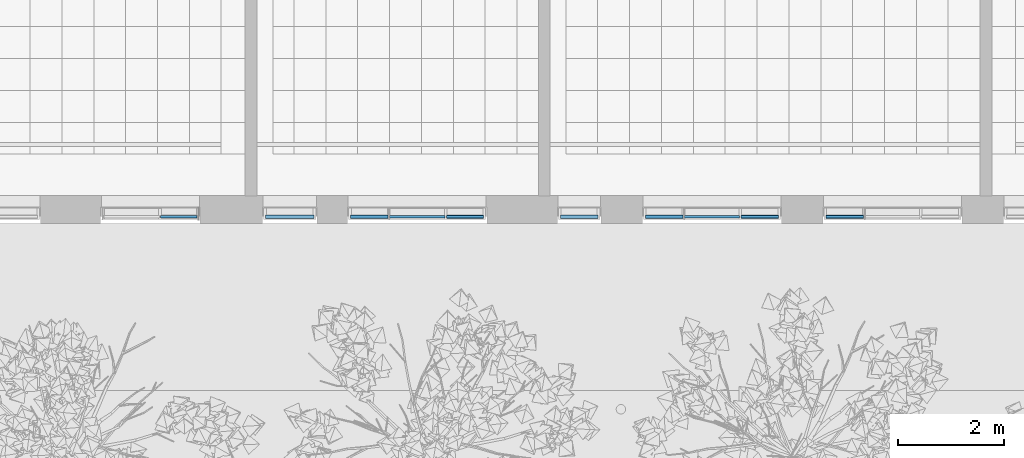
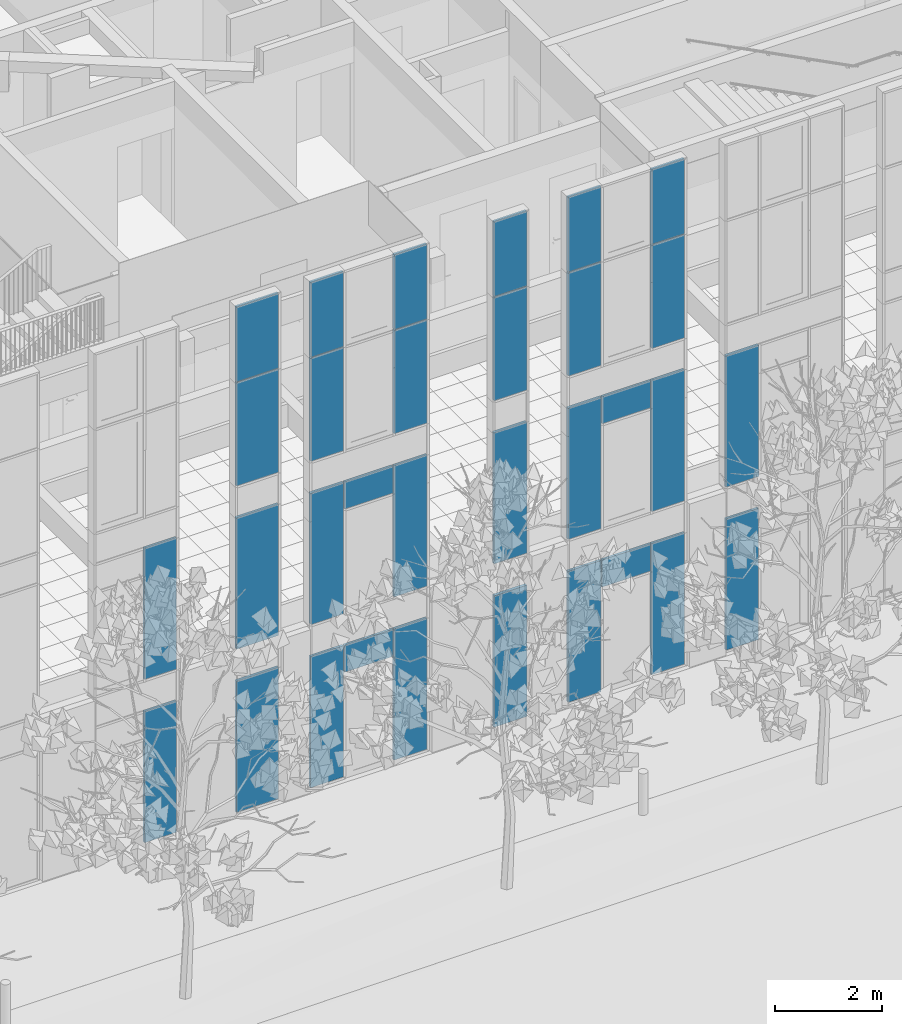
# One storey, part 53 of 246: 32 plates, 6 elements without a shape of their own.
"""IFC2X3 building model written with IfcOpenShell, lengths in millimetres."""

from ifc_helpers import new_model, entity, si_unit, converted_unit, derived_unit, money_unit, direction, frame, origin_with_axes, place, context, subcontext, project, spatial, faceted_brep, source, transform, mapped, material, type_object, element, aggregate, save


model = new_model("IFC2X3")

# Units and contexts
model_context = context("Model", 3, precision=0.01, world=origin_with_axes(), true_north=direction((0.0, 1.0)))
body_context = subcontext(model_context, "Body", "Model", "MODEL_VIEW")
ifc_project = project(units=[si_unit("LENGTHUNIT", "METRE", prefix="MILLI"), si_unit("AREAUNIT", "SQUARE_METRE"), si_unit("VOLUMEUNIT", "CUBIC_METRE"), converted_unit("PLANEANGLEUNIT", "DEGREE", entity("IfcPlaneAngleMeasure", 0.0174532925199), si_unit("PLANEANGLEUNIT", "RADIAN"), dimensions=[0, 0, 0, 0, 0, 0, 0]), si_unit("SOLIDANGLEUNIT", "STERADIAN"), money_unit("EUR"), converted_unit("TIMEUNIT", "Year", entity("IfcTimeMeasure", 31556926.0), si_unit("TIMEUNIT", "SECOND"), dimensions=[0, 0, 1, 0, 0, 0, 0]), si_unit("MASSUNIT", "GRAM", prefix="KILO"), si_unit("THERMODYNAMICTEMPERATUREUNIT", "DEGREE_CELSIUS"), si_unit("LUMINOUSINTENSITYUNIT", "LUMEN"), si_unit("ENERGYUNIT", "JOULE", prefix="MEGA"), derived_unit("THERMALCONDUCTANCEUNIT", [(si_unit("POWERUNIT", "WATT"), 1), (si_unit("LENGTHUNIT", "METRE"), -1), (si_unit("THERMODYNAMICTEMPERATUREUNIT", "KELVIN"), -1)]), derived_unit("SPECIFICHEATCAPACITYUNIT", [(si_unit("ENERGYUNIT", "JOULE"), 1), (si_unit("MASSUNIT", "GRAM", prefix="KILO"), -1), (si_unit("THERMODYNAMICTEMPERATUREUNIT", "KELVIN"), -1)]), derived_unit("MASSDENSITYUNIT", [(si_unit("MASSUNIT", "GRAM", prefix="KILO"), 1), (si_unit("VOLUMEUNIT", "CUBIC_METRE"), -1)])], contexts=[model_context])

# Site, building, storey
site_placement = place(None, origin_with_axes())
site = spatial("IfcSite", under=ifc_project, at=site_placement, Name="L.Koidula tn 11b", CompositionType="ELEMENT")
building_placement = place(site_placement, origin_with_axes())
building = spatial("IfcBuilding", under=site, at=building_placement, Name="Rakvere Riigigümnaasium", CompositionType="ELEMENT")
storey_placement = place(building_placement, origin_with_axes())
storey = spatial("IfcBuildingStorey", under=building, at=storey_placement, Name="1.korrus 0,00", CompositionType="ELEMENT", Elevation=0.0)

# Curtain wall, plates
curtain_wall_type = type_object("IfcCurtainWallType", Name="Curtain Wall Type", PredefinedType="NOTDEFINED")
curtain_wall_1_placement = place(storey_placement, frame((69496.9084811, 5111.45334637, -8.09717186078e-06), z_axis=(0.0, 0.0, 1.0), x_axis=(1.0, 0.0, 0.0)))
curtain_wall_1 = element("IfcCurtainWall", 1, at=curtain_wall_1_placement, inside=storey, type_object=curtain_wall_type, Name="KLF-05-3B")
ifc_material_1 = material(Name="Klaaspakett 3x ribikardinatega")
plate_type_1 = type_object("IfcPlateType", Name="8 x 616 x 54", PredefinedType="CURTAIN_PANEL")
shared_shape_1 = source(origin_with_axes(), body_context, "Body", "Brep", [
    faceted_brep([(1058.00000089, 628.000001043, -27.0), (19.5432752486, 628.000001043, -27.0), (19.5432752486, 628.000001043, 27.0), (1058.00000089, 628.000001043, 27.0), (1058.00000089, 11.9999991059, -27.0), (19.5432752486, 11.9999991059, -27.0), (11.9999991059, 11.9999991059, -27.0), (11.9999991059, 628.000001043, -27.0), (11.9999991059, 628.000001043, 27.0), (11.9999991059, 11.9999991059, 27.0), (19.5432752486, 11.9999991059, 27.0), (1058.00000089, 11.9999991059, 27.0)], [[[0, 1, 2, 3]], [[0, 4, 5, 6, 7, 1]], [[1, 7, 8, 2]], [[3, 2, 8, 9, 10, 11]], [[4, 0, 3, 11]], [[5, 4, 11, 10]], [[6, 5, 10, 9]], [[7, 6, 9, 8]]]),
])
plate_1_placement = place(curtain_wall_1_placement, frame((-68.7275395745, 0.0, 2720.0), z_axis=(0.0, 0.0, 1.0), x_axis=(-1.0, 0.0, 0.0)))
plate_1 = element("IfcPlate", 2, at=plate_1_placement, type_object=plate_type_1, material=ifc_material_1, Name="KLF-58", ObjectType="CURTAIN_PANEL", context=body_context, shape_type="MappedRepresentation", body=[
    mapped(shared_shape_1, transform((363.181089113, 0.0, -320.0), x_axis=(-1.0, 0.0, 0.0), y_axis=(0.0, 0.0, 1.0), z_axis=(0.0, 1.0, 0.0))),
])
plate_2_placement = place(curtain_wall_1_placement, frame((-68.7275395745, 0.0, 6440.0), z_axis=(0.0, 0.0, 1.0), x_axis=(-1.0, 0.0, 0.0)))
plate_2 = element("IfcPlate", 3, at=plate_2_placement, type_object=plate_type_1, material=ifc_material_1, Name="KLF-71", ObjectType="CURTAIN_PANEL", context=body_context, shape_type="MappedRepresentation", body=[
    mapped(shared_shape_1, transform((363.181089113, 0.0, -320.0), x_axis=(-1.0, 0.0, 0.0), y_axis=(0.0, 0.0, 1.0), z_axis=(0.0, 1.0, 0.0))),
])

curtain_wall_2_placement = place(storey_placement, frame((63946.9084811, 5111.45334637, -8.0971711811e-06), z_axis=(0.0, 0.0, 1.0), x_axis=(1.0, 0.0, 0.0)))
curtain_wall_2 = element("IfcCurtainWall", 4, at=curtain_wall_2_placement, inside=storey, type_object=curtain_wall_type, Name="KLF-05-3B")
plate_3_placement = place(curtain_wall_2_placement, frame((-68.7275395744, 0.0, 2720.0), z_axis=(0.0, 0.0, 1.0), x_axis=(-1.0, 0.0, 0.0)))
plate_3 = element("IfcPlate", 5, at=plate_3_placement, type_object=plate_type_1, material=ifc_material_1, Name="KLF-58", ObjectType="CURTAIN_PANEL", context=body_context, shape_type="MappedRepresentation", body=[
    mapped(shared_shape_1, transform((363.181089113, 0.0, -320.0), x_axis=(-1.0, 0.0, 0.0), y_axis=(0.0, 0.0, 1.0), z_axis=(0.0, 1.0, 0.0))),
])
plate_4_placement = place(curtain_wall_2_placement, frame((-68.7275395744, 0.0, 6440.0), z_axis=(0.0, 0.0, 1.0), x_axis=(-1.0, 0.0, 0.0)))
plate_4 = element("IfcPlate", 6, at=plate_4_placement, type_object=plate_type_1, material=ifc_material_1, Name="KLF-71", ObjectType="CURTAIN_PANEL", context=body_context, shape_type="MappedRepresentation", body=[
    mapped(shared_shape_1, transform((363.181089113, 0.0, -320.0), x_axis=(-1.0, 0.0, 0.0), y_axis=(0.0, 0.0, 1.0), z_axis=(0.0, 1.0, 0.0))),
])

curtain_wall_3_placement = place(storey_placement, frame((59064.0000846, 5111.45334637, -8.09717250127e-06), z_axis=(0.0, 0.0, 1.0), x_axis=(1.0, 0.0, 0.0)))
curtain_wall_3 = element("IfcCurtainWall", 7, at=curtain_wall_3_placement, inside=storey, type_object=curtain_wall_type, Name="KLF-05-2A")
plate_type_2 = type_object("IfcPlateType", Name="686 x 628 x 54", PredefinedType="CURTAIN_PANEL")
shared_shape_2 = source(origin_with_axes(), body_context, "Body", "Brep", [
    faceted_brep([(698.000286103, 3028.00000715, -27.0), (11.9999928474, 3028.00000715, -27.0), (11.9999928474, 3028.00000715, 27.0), (698.000286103, 3028.00000715, 27.0), (698.000286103, 2400.00001907, -27.0), (698.000286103, 37.0000119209, -27.0), (11.9999928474, 37.0000119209, -27.0), (11.9999928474, 2400.00001907, -27.0), (11.9999928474, 2400.00001907, 27.0), (11.9999928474, 37.0000119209, 27.0), (698.000286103, 37.0000119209, 27.0), (698.000286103, 2400.00001907, 27.0)], [[[0, 1, 2, 3]], [[0, 4, 5, 6, 7, 1]], [[1, 7, 8, 2]], [[3, 2, 8, 9, 10, 11]], [[4, 0, 3, 11]], [[5, 4, 11, 10]], [[6, 5, 10, 9]], [[7, 6, 9, 8]]]),
])
plate_5_placement = place(curtain_wall_3_placement, frame((599.125087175, 0.0, 1740.0), z_axis=(0.0, 0.0, 1.0), x_axis=(-1.0, 0.0, 0.0)))
plate_5 = element("IfcPlate", 8, at=plate_5_placement, type_object=plate_type_2, material=ifc_material_1, Name="KLF-59", ObjectType="CURTAIN_PANEL", context=body_context, shape_type="MappedRepresentation", body=[
    mapped(shared_shape_2, transform((458.125174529, 0.0, -1740.0), x_axis=(-1.0, 0.0, 0.0), y_axis=(0.0, 0.0, 1.0), z_axis=(0.0, 1.0, 0.0))),
])
shared_shape_3 = source(origin_with_axes(), body_context, "Body", "Brep", [
    faceted_brep([(698.000300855, 3002.99998659, -27.0), (12.0000134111, 3002.99998659, -27.0), (12.0000134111, 3002.99998659, 27.0), (698.000300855, 3002.99998659, 27.0), (698.000300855, 2375.00001855, -27.0), (698.000300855, 12.0000134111, -27.0), (12.0000134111, 12.0000134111, -27.0), (12.0000134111, 2375.00001855, -27.0), (12.0000134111, 2375.00001855, 27.0), (12.0000134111, 12.0000134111, 27.0), (698.000300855, 12.0000134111, 27.0), (698.000300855, 2375.00001855, 27.0)], [[[0, 1, 2, 3]], [[0, 4, 5, 6, 7, 1]], [[1, 7, 8, 2]], [[3, 2, 8, 9, 10, 11]], [[4, 0, 3, 11]], [[5, 4, 11, 10]], [[6, 5, 10, 9]], [[7, 6, 9, 8]]]),
])
plate_6_placement = place(curtain_wall_3_placement, frame((599.125087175, 0.0, 5469.375), z_axis=(0.0, 0.0, 1.0), x_axis=(-1.0, 0.0, 0.0)))
plate_6 = element("IfcPlate", 9, at=plate_6_placement, type_object=plate_type_2, material=ifc_material_1, Name="KLF-63", ObjectType="CURTAIN_PANEL", context=body_context, shape_type="MappedRepresentation", body=[
    mapped(shared_shape_3, transform((458.125174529, 0.0, -1724.375), x_axis=(-1.0, 0.0, 0.0), y_axis=(0.0, 0.0, 1.0), z_axis=(0.0, 1.0, 0.0))),
])
aggregate(curtain_wall_3, [plate_5, plate_6])

# Plate
ifc_material_2 = material(Name="Klaaspakett 3x")
plate_type_3 = type_object("IfcPlateType", Name="Distinct Panel 706 x 828 x 65", PredefinedType="CURTAIN_PANEL")
shared_shape_4 = source(origin_with_axes(), body_context, "Body", "Brep", [
    faceted_brep([(717.999934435, 2363.00000149, -32.5), (11.9999985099, 2363.00000149, -32.5), (11.9999985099, 2363.00000149, 32.5), (717.999934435, 2363.00000149, 32.5), (717.999969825, 11.9999985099, -32.5), (11.9999985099, 11.9999985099, -32.5), (11.9999985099, 1534.99999814, -32.5), (11.9999985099, 1534.99999814, 32.5), (11.9999985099, 11.9999985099, 32.5), (717.999969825, 11.9999985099, 32.5)], [[[0, 1, 2, 3]], [[0, 4, 5, 6, 1]], [[1, 6, 7, 2]], [[3, 2, 7, 8, 9]], [[4, 0, 3, 9]], [[5, 4, 9, 8]], [[6, 5, 8, 7]]]),
])
plate_7_placement = place(curtain_wall_1_placement, frame((940.091351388, 0.0, 8722.0), z_axis=(0.0, 0.0, 1.0), x_axis=(-1.0, 0.0, 0.0)))
plate_7 = element("IfcPlate", 10, at=plate_7_placement, type_object=plate_type_3, material=ifc_material_2, Name="KLF-05-2A-Klaasid", ObjectType="CURTAIN_PANEL", context=body_context, shape_type="MappedRepresentation", body=[
    mapped(shared_shape_4, transform((301.999980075, 0.0, -1257.0), x_axis=(-1.0, 0.0, 0.0), y_axis=(0.0, 0.0, 1.0), z_axis=(0.0, 1.0, 0.0))),
])

plate_8_placement = place(curtain_wall_2_placement, frame((940.091351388, 0.0, 8722.0), z_axis=(0.0, 0.0, 1.0), x_axis=(-1.0, 0.0, 0.0)))
plate_8 = element("IfcPlate", 11, at=plate_8_placement, type_object=plate_type_3, material=ifc_material_2, Name="KLF-05-2A-Klaasid", ObjectType="CURTAIN_PANEL", context=body_context, shape_type="MappedRepresentation", body=[
    mapped(shared_shape_4, transform((301.999980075, 0.0, -1257.0), x_axis=(-1.0, 0.0, 0.0), y_axis=(0.0, 0.0, 1.0), z_axis=(0.0, 1.0, 0.0))),
])

plate_type_4 = type_object("IfcPlateType", Name="706 x 628 x 54", PredefinedType="CURTAIN_PANEL")
shared_shape_5 = source(origin_with_axes(), body_context, "Body", "Brep", [
    faceted_brep([(717.999957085, 3028.00000715, -27.0), (11.9999928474, 3028.00000715, -27.0), (11.9999928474, 3028.00000715, 27.0), (717.999957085, 3028.00000715, 27.0), (717.999911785, 2400.00001907, -27.0), (717.999957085, 37.0000119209, -27.0), (11.9999928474, 37.0000119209, -27.0), (11.9999928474, 2400.00001907, -27.0), (11.9999928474, 2400.00001907, 27.0), (11.9999928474, 37.0000119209, 27.0), (717.999957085, 37.0000119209, 27.0), (717.999911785, 2400.00001907, 27.0)], [[[0, 1, 2, 3]], [[0, 4, 5, 6, 7, 1]], [[1, 7, 8, 2]], [[3, 2, 8, 9, 10, 11]], [[4, 0, 3, 11]], [[5, 4, 11, 10]], [[6, 5, 10, 9]], [[7, 6, 9, 8]]]),
])
plate_9_placement = place(curtain_wall_1_placement, frame((1015.59134147, 0.0, 1813.33333333), z_axis=(0.0, 0.0, 1.0), x_axis=(-1.0, 0.0, 0.0)))
plate_9 = element("IfcPlate", 12, at=plate_9_placement, type_object=plate_type_4, material=ifc_material_1, Name="KLF-59", ObjectType="CURTAIN_PANEL", context=body_context, shape_type="MappedRepresentation", body=[
    mapped(shared_shape_5, transform((377.499970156, 0.0, -1813.33333333), x_axis=(-1.0, 0.0, 0.0), y_axis=(0.0, 0.0, 1.0), z_axis=(0.0, 1.0, 0.0))),
])

plate_10_placement = place(curtain_wall_2_placement, frame((1015.59134147, 0.0, 1813.33333333), z_axis=(0.0, 0.0, 1.0), x_axis=(-1.0, 0.0, 0.0)))
plate_10 = element("IfcPlate", 13, at=plate_10_placement, type_object=plate_type_4, material=ifc_material_1, Name="KLF-59", ObjectType="CURTAIN_PANEL", context=body_context, shape_type="MappedRepresentation", body=[
    mapped(shared_shape_5, transform((377.499970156, 0.0, -1813.33333333), x_axis=(-1.0, 0.0, 0.0), y_axis=(0.0, 0.0, 1.0), z_axis=(0.0, 1.0, 0.0))),
])

shared_shape_6 = source(origin_with_axes(), body_context, "Body", "Brep", [
    faceted_brep([(717.999978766, 3002.99998659, -27.0), (12.0000134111, 3002.99998659, -27.0), (12.0000134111, 3002.99998659, 27.0), (717.999978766, 3002.99998659, 27.0), (717.999888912, 2375.00001855, -27.0), (717.999978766, 12.0000134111, -27.0), (12.0000134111, 12.0000134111, -27.0), (12.0000134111, 2375.00001855, -27.0), (12.0000134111, 2375.00001855, 27.0), (12.0000134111, 12.0000134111, 27.0), (717.999978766, 12.0000134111, 27.0), (717.999888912, 2375.00001855, 27.0)], [[[0, 1, 2, 3]], [[0, 4, 5, 6, 7, 1]], [[1, 7, 8, 2]], [[3, 2, 8, 9, 10, 11]], [[4, 0, 3, 11]], [[5, 4, 11, 10]], [[6, 5, 10, 9]], [[7, 6, 9, 8]]]),
])
plate_11_placement = place(curtain_wall_1_placement, frame((1015.59134147, 0.0, 5541.66666667), z_axis=(0.0, 0.0, 1.0), x_axis=(-1.0, 0.0, 0.0)))
plate_11 = element("IfcPlate", 14, at=plate_11_placement, type_object=plate_type_4, material=ifc_material_1, Name="KLF-63", ObjectType="CURTAIN_PANEL", context=body_context, shape_type="MappedRepresentation", body=[
    mapped(shared_shape_6, transform((377.499970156, 0.0, -1796.66666667), x_axis=(-1.0, 0.0, 0.0), y_axis=(0.0, 0.0, 1.0), z_axis=(0.0, 1.0, 0.0))),
])

plate_12_placement = place(curtain_wall_2_placement, frame((1015.59134147, 0.0, 5541.66666667), z_axis=(0.0, 0.0, 1.0), x_axis=(-1.0, 0.0, 0.0)))
plate_12 = element("IfcPlate", 15, at=plate_12_placement, type_object=plate_type_4, material=ifc_material_1, Name="KLF-63", ObjectType="CURTAIN_PANEL", context=body_context, shape_type="MappedRepresentation", body=[
    mapped(shared_shape_6, transform((377.499970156, 0.0, -1796.66666667), x_axis=(-1.0, 0.0, 0.0), y_axis=(0.0, 0.0, 1.0), z_axis=(0.0, 1.0, 0.0))),
])

plate_type_5 = type_object("IfcPlateType", Name="Distinct Panel 706 x 1701 x 65", PredefinedType="CURTAIN_PANEL")
shared_shape_7 = source(origin_with_axes(), body_context, "Body", "Brep", [
    faceted_brep([(717.999940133, 1713.0000343, -32.5), (12.0000099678, 1713.0000343, -32.5), (12.0000099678, 1713.0000343, 32.5), (717.999940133, 1713.0000343, 32.5), (717.999940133, 12.0000099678, -32.5), (12.0000099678, 12.0000099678, -32.5), (12.0000099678, 12.0000099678, 32.5), (717.999940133, 12.0000099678, 32.5)], [[[0, 1, 2, 3]], [[0, 4, 5, 1]], [[1, 5, 6, 2]], [[3, 2, 6, 7]], [[4, 0, 3, 7]], [[5, 4, 7, 6]]]),
])
plate_13_placement = place(curtain_wall_1_placement, frame((1015.59134099, 0.0, 10715.0000206), z_axis=(0.0, 0.0, 1.0), x_axis=(-1.0, 0.0, 0.0)))
plate_13 = element("IfcPlate", 16, at=plate_13_placement, type_object=plate_type_5, material=ifc_material_2, Name="KLF-05-6A-Klaasid", ObjectType="CURTAIN_PANEL", context=body_context, shape_type="MappedRepresentation", body=[
    mapped(shared_shape_7, transform((377.499969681, 0.0, -875.000020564), x_axis=(-1.0, 0.0, 0.0), y_axis=(0.0, 0.0, 1.0), z_axis=(0.0, 1.0, 0.0))),
])

plate_14_placement = place(curtain_wall_2_placement, frame((1015.59134099, 0.0, 10715.0000206), z_axis=(0.0, 0.0, 1.0), x_axis=(-1.0, 0.0, 0.0)))
plate_14 = element("IfcPlate", 17, at=plate_14_placement, type_object=plate_type_5, material=ifc_material_2, Name="KLF-05-6A-Klaasid", ObjectType="CURTAIN_PANEL", context=body_context, shape_type="MappedRepresentation", body=[
    mapped(shared_shape_7, transform((377.499969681, 0.0, -875.000020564), x_axis=(-1.0, 0.0, 0.0), y_axis=(0.0, 0.0, 1.0), z_axis=(0.0, 1.0, 0.0))),
])

# Curtain wall, plate
curtain_wall_4_placement = place(storey_placement, frame((72896.908541, 5111.45334637, -8.09717227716e-06), z_axis=(0.0, 0.0, 1.0), x_axis=(1.0, 0.0, 0.0)))
curtain_wall_4 = element("IfcCurtainWall", 18, at=curtain_wall_4_placement, inside=storey, type_object=curtain_wall_type, Name="KLF-05-3B")
plate_type_6 = type_object("IfcPlateType", Name="Distinct Panel 706 x 628 x 65", PredefinedType="CURTAIN_PANEL")
shared_shape_8 = source(origin_with_axes(), body_context, "Body", "Brep", [
    faceted_brep([(787.999998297, 3002.99998659, -32.5), (81.9998981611, 3002.99998659, -32.5), (81.9998981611, 3002.99998659, 32.5), (787.999998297, 3002.99998659, 32.5), (787.999998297, 2375.00001855, -32.5), (787.999998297, 12.0000134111, -32.5), (81.9998981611, 12.0000134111, -32.5), (81.9998981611, 2375.00001855, -32.5), (81.9998981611, 2375.00001855, 32.5), (81.9998981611, 12.0000134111, 32.5), (787.999998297, 12.0000134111, 32.5), (787.999998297, 2375.00001855, 32.5)], [[[0, 1, 2, 3]], [[0, 4, 5, 6, 7, 1]], [[1, 7, 8, 2]], [[3, 2, 8, 9, 10, 11]], [[4, 0, 3, 11]], [[5, 4, 11, 10]], [[6, 5, 10, 9]], [[7, 6, 9, 8]]]),
])
plate_15_placement = place(curtain_wall_4_placement, frame((-809.408670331, 0.0, 5541.66666667), z_axis=(0.0, 0.0, 1.0), x_axis=(-1.0, 0.0, 0.0)))
plate_15 = element("IfcPlate", 19, at=plate_15_placement, type_object=plate_type_6, material=ifc_material_2, Name="KLF-05-5A-Klaasid", ObjectType="CURTAIN_PANEL", context=body_context, shape_type="MappedRepresentation", body=[
    mapped(shared_shape_8, transform((422.499958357, 0.0, -1796.66666667), x_axis=(-1.0, 0.0, 0.0), y_axis=(0.0, 0.0, 1.0), z_axis=(0.0, 1.0, 0.0))),
])

# Plate
plate_16_placement = place(curtain_wall_1_placement, frame((-809.408670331, 0.0, 5541.66666667), z_axis=(0.0, 0.0, 1.0), x_axis=(-1.0, 0.0, 0.0)))
plate_16 = element("IfcPlate", 20, at=plate_16_placement, type_object=plate_type_6, material=ifc_material_2, Name="KLF-05-5A-Klaasid", ObjectType="CURTAIN_PANEL", context=body_context, shape_type="MappedRepresentation", body=[
    mapped(shared_shape_8, transform((422.499958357, 0.0, -1796.66666667), x_axis=(-1.0, 0.0, 0.0), y_axis=(0.0, 0.0, 1.0), z_axis=(0.0, 1.0, 0.0))),
])

plate_17_placement = place(curtain_wall_2_placement, frame((-809.408670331, 0.0, 5541.66666667), z_axis=(0.0, 0.0, 1.0), x_axis=(-1.0, 0.0, 0.0)))
plate_17 = element("IfcPlate", 21, at=plate_17_placement, type_object=plate_type_6, material=ifc_material_2, Name="KLF-05-5A-Klaasid", ObjectType="CURTAIN_PANEL", context=body_context, shape_type="MappedRepresentation", body=[
    mapped(shared_shape_8, transform((422.499958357, 0.0, -1796.66666667), x_axis=(-1.0, 0.0, 0.0), y_axis=(0.0, 0.0, 1.0), z_axis=(0.0, 1.0, 0.0))),
])

shared_shape_9 = source(origin_with_axes(), body_context, "Body", "Brep", [
    faceted_brep([(787.99998347, 3028.00000715, -27.0), (81.999928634, 3028.00000715, -27.0), (81.999928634, 3028.00000715, 27.0), (787.99998347, 3028.00000715, 27.0), (787.99998347, 2400.00001907, -27.0), (787.99998347, 37.0000119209, -27.0), (81.999928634, 37.0000119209, -27.0), (81.999928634, 2400.00001907, -27.0), (81.999928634, 2400.00001907, 27.0), (81.999928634, 37.0000119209, 27.0), (787.99998347, 37.0000119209, 27.0), (787.99998347, 2400.00001907, 27.0)], [[[0, 1, 2, 3]], [[0, 4, 5, 6, 7, 1]], [[1, 7, 8, 2]], [[3, 2, 8, 9, 10, 11]], [[4, 0, 3, 11]], [[5, 4, 11, 10]], [[6, 5, 10, 9]], [[7, 6, 9, 8]]]),
])
plate_18_placement = place(curtain_wall_4_placement, frame((-809.408670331, 0.0, 1813.33333333), z_axis=(0.0, 0.0, 1.0), x_axis=(-1.0, 0.0, 0.0)))
plate_18 = element("IfcPlate", 22, at=plate_18_placement, type_object=plate_type_4, material=ifc_material_1, Name="Panel-Uks-002", ObjectType="CURTAIN_PANEL", context=body_context, shape_type="MappedRepresentation", body=[
    mapped(shared_shape_9, transform((422.499958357, 0.0, -1813.33333333), x_axis=(-1.0, 0.0, 0.0), y_axis=(0.0, 0.0, 1.0), z_axis=(0.0, 1.0, 0.0))),
])

aggregate(curtain_wall_4, [plate_15, plate_18])

plate_19_placement = place(curtain_wall_1_placement, frame((-809.408670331, 0.0, 1813.33333333), z_axis=(0.0, 0.0, 1.0), x_axis=(-1.0, 0.0, 0.0)))
plate_19 = element("IfcPlate", 23, at=plate_19_placement, type_object=plate_type_4, material=ifc_material_1, Name="Panel-Uks-002", ObjectType="CURTAIN_PANEL", context=body_context, shape_type="MappedRepresentation", body=[
    mapped(shared_shape_9, transform((422.499958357, 0.0, -1813.33333333), x_axis=(-1.0, 0.0, 0.0), y_axis=(0.0, 0.0, 1.0), z_axis=(0.0, 1.0, 0.0))),
])

plate_20_placement = place(curtain_wall_2_placement, frame((-809.408670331, 0.0, 1813.33333333), z_axis=(0.0, 0.0, 1.0), x_axis=(-1.0, 0.0, 0.0)))
plate_20 = element("IfcPlate", 24, at=plate_20_placement, type_object=plate_type_4, material=ifc_material_1, Name="Panel-Uks-002", ObjectType="CURTAIN_PANEL", context=body_context, shape_type="MappedRepresentation", body=[
    mapped(shared_shape_9, transform((422.499958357, 0.0, -1813.33333333), x_axis=(-1.0, 0.0, 0.0), y_axis=(0.0, 0.0, 1.0), z_axis=(0.0, 1.0, 0.0))),
])

shared_shape_10 = source(origin_with_axes(), body_context, "Body", "Brep", [
    faceted_brep([(788.000002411, 1713.0000343, -32.5), (81.9997332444, 1713.0000343, -32.5), (81.9997332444, 1713.0000343, 32.5), (788.000002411, 1713.0000343, 32.5), (788.000002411, 12.0000099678, -32.5), (81.9997332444, 12.0000099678, -32.5), (81.9997332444, 12.0000099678, 32.5), (788.000002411, 12.0000099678, 32.5)], [[[0, 1, 2, 3]], [[0, 4, 5, 1]], [[1, 5, 6, 2]], [[3, 2, 6, 7]], [[4, 0, 3, 7]], [[5, 4, 7, 6]]]),
])
plate_21_placement = place(curtain_wall_1_placement, frame((-809.408761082, 0.0, 10715.0000206), z_axis=(0.0, 0.0, 1.0), x_axis=(-1.0, 0.0, 0.0)))
plate_21 = element("IfcPlate", 25, at=plate_21_placement, type_object=plate_type_5, material=ifc_material_2, Name="KLF-05-3A-Klaasid", ObjectType="CURTAIN_PANEL", context=body_context, shape_type="MappedRepresentation", body=[
    mapped(shared_shape_10, transform((422.499867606, 0.0, -875.000020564), x_axis=(-1.0, 0.0, 0.0), y_axis=(0.0, 0.0, 1.0), z_axis=(0.0, 1.0, 0.0))),
])

plate_22_placement = place(curtain_wall_2_placement, frame((-809.408761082, 0.0, 10715.0000206), z_axis=(0.0, 0.0, 1.0), x_axis=(-1.0, 0.0, 0.0)))
plate_22 = element("IfcPlate", 26, at=plate_22_placement, type_object=plate_type_5, material=ifc_material_2, Name="KLF-05-3A-Klaasid", ObjectType="CURTAIN_PANEL", context=body_context, shape_type="MappedRepresentation", body=[
    mapped(shared_shape_10, transform((422.499867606, 0.0, -875.000020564), x_axis=(-1.0, 0.0, 0.0), y_axis=(0.0, 0.0, 1.0), z_axis=(0.0, 1.0, 0.0))),
])

plate_type_7 = type_object("IfcPlateType", Name="Distinct Panel 706 x 2351 x 65", PredefinedType="CURTAIN_PANEL")
shared_shape_11 = source(origin_with_axes(), body_context, "Body", "Brep", [
    faceted_brep([(788.000017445, 2363.00000149, -32.5), (81.9997276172, 2363.00000149, -32.5), (81.9997276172, 2363.00000149, 32.5), (788.000017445, 2363.00000149, 32.5), (788.000017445, 11.9999985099, -32.5), (81.9997276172, 11.9999985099, -32.5), (81.9997276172, 11.9999985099, 32.5), (788.000017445, 11.9999985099, 32.5)], [[[0, 1, 2, 3]], [[0, 4, 5, 1]], [[1, 5, 6, 2]], [[3, 2, 6, 7]], [[4, 0, 3, 7]], [[5, 4, 7, 6]]]),
])
plate_23_placement = place(curtain_wall_1_placement, frame((-809.408756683, 0.0, 8652.5), z_axis=(0.0, 0.0, 1.0), x_axis=(-1.0, 0.0, 0.0)))
plate_23 = element("IfcPlate", 27, at=plate_23_placement, type_object=plate_type_7, material=ifc_material_2, Name="KLF-05-2A-Klaasid", ObjectType="CURTAIN_PANEL", context=body_context, shape_type="MappedRepresentation", body=[
    mapped(shared_shape_11, transform((422.499872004, 0.0, -1187.5), x_axis=(-1.0, 0.0, 0.0), y_axis=(0.0, 0.0, 1.0), z_axis=(0.0, 1.0, 0.0))),
])

aggregate(curtain_wall_1, [plate_1, plate_7, plate_9, plate_2, plate_11, plate_13, plate_16, plate_19, plate_21, plate_23])

plate_24_placement = place(curtain_wall_2_placement, frame((-809.408756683, 0.0, 8652.5), z_axis=(0.0, 0.0, 1.0), x_axis=(-1.0, 0.0, 0.0)))
plate_24 = element("IfcPlate", 28, at=plate_24_placement, type_object=plate_type_7, material=ifc_material_2, Name="KLF-05-2A-Klaasid", ObjectType="CURTAIN_PANEL", context=body_context, shape_type="MappedRepresentation", body=[
    mapped(shared_shape_11, transform((422.499872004, 0.0, -1187.5), x_axis=(-1.0, 0.0, 0.0), y_axis=(0.0, 0.0, 1.0), z_axis=(0.0, 1.0, 0.0))),
])

aggregate(curtain_wall_2, [plate_3, plate_8, plate_10, plate_4, plate_12, plate_14, plate_17, plate_20, plate_22, plate_24])

# Curtain wall, plates
curtain_wall_5_placement = place(storey_placement, frame((61650.0002269, 5111.45334637, -8.09717995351e-06), z_axis=(0.0, 0.0, 1.0), x_axis=(1.0, 0.0, 0.0)))
curtain_wall_5 = element("IfcCurtainWall", 29, at=curtain_wall_5_placement, inside=storey, type_object=curtain_wall_type, Name="KLF-05-4B")
plate_type_8 = type_object("IfcPlateType", Name="Distinct Panel 906 x 2351 x 65", PredefinedType="CURTAIN_PANEL")
shared_shape_12 = source(origin_with_axes(), body_context, "Body", "Brep", [
    faceted_brep([(943.000225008, 2363.00000149, -32.5), (36.9999836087, 2363.00000149, -32.5), (36.9999836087, 2363.00000149, 32.5), (943.000225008, 2363.00000149, 32.5), (943.000295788, 11.9999985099, -32.5), (36.9999836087, 11.9999985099, -32.5), (36.9999836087, 11.9999985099, 32.5), (943.000295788, 11.9999985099, 32.5)], [[[0, 1, 2, 3]], [[0, 4, 5, 1]], [[1, 5, 6, 2]], [[3, 2, 6, 7]], [[4, 0, 3, 7]], [[5, 4, 7, 6]]]),
])
plate_25_placement = place(curtain_wall_5_placement, frame((0.0, 0.0, 8652.5), z_axis=(0.0, 0.0, 1.0), x_axis=(-1.0, 0.0, 0.0)))
plate_25 = element("IfcPlate", 30, at=plate_25_placement, type_object=plate_type_8, material=ifc_material_1, Name="KLF-69", ObjectType="CURTAIN_PANEL", context=body_context, shape_type="MappedRepresentation", body=[
    mapped(shared_shape_12, transform((490.000127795, 0.0, -1187.5), x_axis=(-1.0, 0.0, 0.0), y_axis=(0.0, 0.0, 1.0), z_axis=(0.0, 1.0, 0.0))),
])
plate_type_9 = type_object("IfcPlateType", Name="Distinct Panel 906 x 2991 x 65", PredefinedType="CURTAIN_PANEL")
shared_shape_13 = source(origin_with_axes(), body_context, "Body", "Brep", [
    faceted_brep([(943.000320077, 3002.99998659, -32.5), (36.999981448, 3002.99998659, -32.5), (36.999981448, 3002.99998659, 32.5), (943.000320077, 3002.99998659, 32.5), (943.000320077, 12.0000134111, -32.5), (36.999981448, 12.0000134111, -32.5), (36.999981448, 12.0000134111, 32.5), (943.000320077, 12.0000134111, 32.5)], [[[0, 1, 2, 3]], [[0, 4, 5, 1]], [[1, 5, 6, 2]], [[3, 2, 6, 7]], [[4, 0, 3, 7]], [[5, 4, 7, 6]]]),
])
plate_26_placement = place(curtain_wall_5_placement, frame((2.13789448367e-05, 0.0, 5252.5), z_axis=(0.0, 0.0, 1.0), x_axis=(-1.0, 0.0, 0.0)))
plate_26 = element("IfcPlate", 31, at=plate_26_placement, type_object=plate_type_9, material=ifc_material_1, Name="KLF-65", ObjectType="CURTAIN_PANEL", context=body_context, shape_type="MappedRepresentation", body=[
    mapped(shared_shape_13, transform((490.000149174, 0.0, -1507.5), x_axis=(-1.0, 0.0, 0.0), y_axis=(0.0, 0.0, 1.0), z_axis=(0.0, 1.0, 0.0))),
])
plate_type_10 = type_object("IfcPlateType", Name="Distinct Panel 906 x 628 x 65", PredefinedType="CURTAIN_PANEL")
shared_shape_14 = source(origin_with_axes(), body_context, "Body", "Brep", [
    faceted_brep([(943.000309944, 3028.00000715, -32.5), (37.0000119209, 3028.00000715, -32.5), (37.0000119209, 3028.00000715, 32.5), (943.000309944, 3028.00000715, 32.5), (943.000309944, 2400.00001907, -32.5), (943.000309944, 37.0000119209, -32.5), (37.0000119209, 37.0000119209, -32.5), (37.0000119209, 2400.00001907, -32.5), (37.0000119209, 2400.00001907, 32.5), (37.0000119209, 37.0000119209, 32.5), (943.000309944, 37.0000119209, 32.5), (943.000309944, 2400.00001907, 32.5)], [[[0, 1, 2, 3]], [[0, 4, 5, 6, 7, 1]], [[1, 7, 8, 2]], [[3, 2, 8, 9, 10, 11]], [[4, 0, 3, 11]], [[5, 4, 11, 10]], [[6, 5, 10, 9]], [[7, 6, 9, 8]]]),
])
plate_27_placement = place(curtain_wall_5_placement, frame((2.13789377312e-05, 0.0, 1813.33333333), z_axis=(0.0, 0.0, 1.0), x_axis=(-1.0, 0.0, 0.0)))
plate_27 = element("IfcPlate", 32, at=plate_27_placement, type_object=plate_type_10, material=ifc_material_1, Name="KLF-57", ObjectType="CURTAIN_PANEL", context=body_context, shape_type="MappedRepresentation", body=[
    mapped(shared_shape_14, transform((490.000149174, 0.0, -1813.33333333), x_axis=(-1.0, 0.0, 0.0), y_axis=(0.0, 0.0, 1.0), z_axis=(0.0, 1.0, 0.0))),
])
plate_type_11 = type_object("IfcPlateType", Name="Distinct Panel 906 x 1701 x 65", PredefinedType="CURTAIN_PANEL")
shared_shape_15 = source(origin_with_axes(), body_context, "Body", "Brep", [
    faceted_brep([(943.000276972, 1713.0000343, -32.5), (37.00000683, 1713.0000343, -32.5), (37.00000683, 1713.0000343, 32.5), (943.000276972, 1713.0000343, 32.5), (943.000224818, 12.0000099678, -32.5), (37.00000683, 12.0000099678, -32.5), (37.00000683, 12.0000099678, 32.5), (943.000224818, 12.0000099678, 32.5)], [[[0, 1, 2, 3]], [[0, 4, 5, 1]], [[1, 5, 6, 2]], [[3, 2, 6, 7]], [[4, 0, 3, 7]], [[5, 4, 7, 6]]]),
])
plate_28_placement = place(curtain_wall_5_placement, frame((-5.48823209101e-06, 0.0, 10715.0000206), z_axis=(0.0, 0.0, 1.0), x_axis=(-1.0, 0.0, 0.0)))
plate_28 = element("IfcPlate", 33, at=plate_28_placement, type_object=plate_type_11, material=ifc_material_1, Name="KLF-73", ObjectType="CURTAIN_PANEL", context=body_context, shape_type="MappedRepresentation", body=[
    mapped(shared_shape_15, transform((490.000122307, 0.0, -875.000020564), x_axis=(-1.0, 0.0, 0.0), y_axis=(0.0, 0.0, 1.0), z_axis=(0.0, 1.0, 0.0))),
])
aggregate(curtain_wall_5, [plate_25, plate_26, plate_27, plate_28])

curtain_wall_6_placement = place(storey_placement, frame((67100.0002798, 5111.45334637, -1.61944652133e-05), z_axis=(0.0, 0.0, 1.0), x_axis=(1.0, 0.0, 0.0)))
curtain_wall_6 = element("IfcCurtainWall", 34, at=curtain_wall_6_placement, inside=storey, type_object=curtain_wall_type, Name="KLF-05-4A")
shared_shape_16 = source(origin_with_axes(), body_context, "Body", "Brep", [
    faceted_brep([(743.000379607, 2363.00000149, -32.5), (36.9999836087, 2363.00000149, -32.5), (36.9999836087, 2363.00000149, 32.5), (743.000379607, 2363.00000149, 32.5), (743.000414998, 11.9999985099, -32.5), (36.9999836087, 11.9999985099, -32.5), (36.9999836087, 11.9999985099, 32.5), (743.000414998, 11.9999985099, 32.5)], [[[0, 1, 2, 3]], [[0, 4, 5, 1]], [[1, 5, 6, 2]], [[3, 2, 6, 7]], [[4, 0, 3, 7]], [[5, 4, 7, 6]]]),
])
plate_29_placement = place(curtain_wall_6_placement, frame((0.0, 0.0, 8652.5), z_axis=(0.0, 0.0, 1.0), x_axis=(-1.0, 0.0, 0.0)))
plate_29 = element("IfcPlate", 35, at=plate_29_placement, type_object=plate_type_7, material=ifc_material_1, Name="KLF-05-4A-Klaasid", ObjectType="CURTAIN_PANEL", context=body_context, shape_type="MappedRepresentation", body=[
    mapped(shared_shape_16, transform((390.000197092, 0.0, -1187.5), x_axis=(-1.0, 0.0, 0.0), y_axis=(0.0, 0.0, 1.0), z_axis=(0.0, 1.0, 0.0))),
])
plate_type_12 = type_object("IfcPlateType", Name="Distinct Panel 706 x 2991 x 65", PredefinedType="CURTAIN_PANEL")
shared_shape_17 = source(origin_with_axes(), body_context, "Body", "Brep", [
    faceted_brep([(743.000396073, 3002.99998659, -32.5), (36.999981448, 3002.99998659, -32.5), (36.999981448, 3002.99998659, 32.5), (743.000396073, 3002.99998659, 32.5), (743.000396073, 12.0000134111, -32.5), (36.999981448, 12.0000134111, -32.5), (36.999981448, 12.0000134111, 32.5), (743.000396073, 12.0000134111, 32.5)], [[[0, 1, 2, 3]], [[0, 4, 5, 1]], [[1, 5, 6, 2]], [[3, 2, 6, 7]], [[4, 0, 3, 7]], [[5, 4, 7, 6]]]),
])
plate_30_placement = place(curtain_wall_6_placement, frame((5.73966474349e-06, 0.0, 5252.5), z_axis=(0.0, 0.0, 1.0), x_axis=(-1.0, 0.0, 0.0)))
plate_30 = element("IfcPlate", 36, at=plate_30_placement, type_object=plate_type_12, material=ifc_material_1, Name="KLF-05-4A-Klaasid", ObjectType="CURTAIN_PANEL", context=body_context, shape_type="MappedRepresentation", body=[
    mapped(shared_shape_17, transform((390.000202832, 0.0, -1507.5), x_axis=(-1.0, 0.0, 0.0), y_axis=(0.0, 0.0, 1.0), z_axis=(0.0, 1.0, 0.0))),
])
shared_shape_18 = source(origin_with_axes(), body_context, "Body", "Brep", [
    faceted_brep([(743.000383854, 3028.00000715, -32.5), (37.0000119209, 3028.00000715, -32.5), (37.0000119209, 3028.00000715, 32.5), (743.000383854, 3028.00000715, 32.5), (743.000383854, 2400.00001907, -32.5), (743.000383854, 37.0000119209, -32.5), (37.0000119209, 37.0000119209, -32.5), (37.0000119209, 2400.00001907, -32.5), (37.0000119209, 2400.00001907, 32.5), (37.0000119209, 37.0000119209, 32.5), (743.000383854, 37.0000119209, 32.5), (743.000383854, 2400.00001907, 32.5)], [[[0, 1, 2, 3]], [[0, 4, 5, 6, 7, 1]], [[1, 7, 8, 2]], [[3, 2, 8, 9, 10, 11]], [[4, 0, 3, 11]], [[5, 4, 11, 10]], [[6, 5, 10, 9]], [[7, 6, 9, 8]]]),
])
plate_31_placement = place(curtain_wall_6_placement, frame((5.73966474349e-06, 0.0, 1813.33333333), z_axis=(0.0, 0.0, 1.0), x_axis=(-1.0, 0.0, 0.0)))
plate_31 = element("IfcPlate", 37, at=plate_31_placement, type_object=plate_type_6, material=ifc_material_1, Name="KLF-05-4A-Klaasid", ObjectType="CURTAIN_PANEL", context=body_context, shape_type="MappedRepresentation", body=[
    mapped(shared_shape_18, transform((390.000202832, 0.0, -1813.33333333), x_axis=(-1.0, 0.0, 0.0), y_axis=(0.0, 0.0, 1.0), z_axis=(0.0, 1.0, 0.0))),
])
shared_shape_19 = source(origin_with_axes(), body_context, "Body", "Brep", [
    faceted_brep([(743.000328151, 1713.0000343, -32.5), (37.00000683, 1713.0000343, -32.5), (37.00000683, 1713.0000343, 32.5), (743.000328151, 1713.0000343, 32.5), (743.000380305, 12.0000099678, -32.5), (37.00000683, 12.0000099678, -32.5), (37.00000683, 12.0000099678, 32.5), (743.000380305, 12.0000099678, 32.5)], [[[0, 1, 2, 3]], [[0, 4, 5, 1]], [[1, 5, 6, 2]], [[3, 2, 6, 7]], [[4, 0, 3, 7]], [[5, 4, 7, 6]]]),
])
plate_32_placement = place(curtain_wall_6_placement, frame((-2.2482296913e-05, 0.0, 10715.0000206), z_axis=(0.0, 0.0, 1.0), x_axis=(-1.0, 0.0, 0.0)))
plate_32 = element("IfcPlate", 38, at=plate_32_placement, type_object=plate_type_5, material=ifc_material_1, Name="KLF-05-4A-Klaasid", ObjectType="CURTAIN_PANEL", context=body_context, shape_type="MappedRepresentation", body=[
    mapped(shared_shape_19, transform((390.00017461, 0.0, -875.000020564), x_axis=(-1.0, 0.0, 0.0), y_axis=(0.0, 0.0, 1.0), z_axis=(0.0, 1.0, 0.0))),
])
aggregate(curtain_wall_6, [plate_29, plate_30, plate_31, plate_32])

save(model, "model.ifc")
